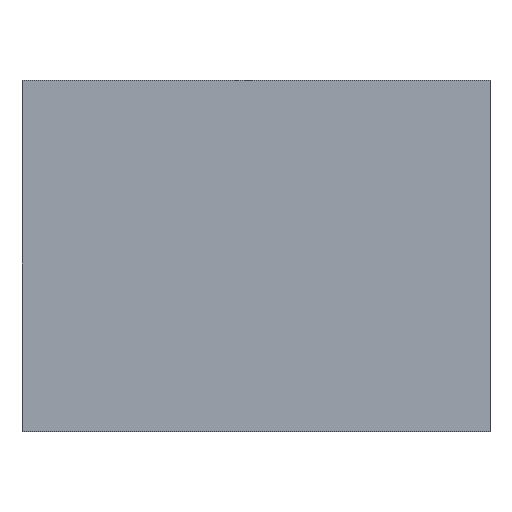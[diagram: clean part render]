
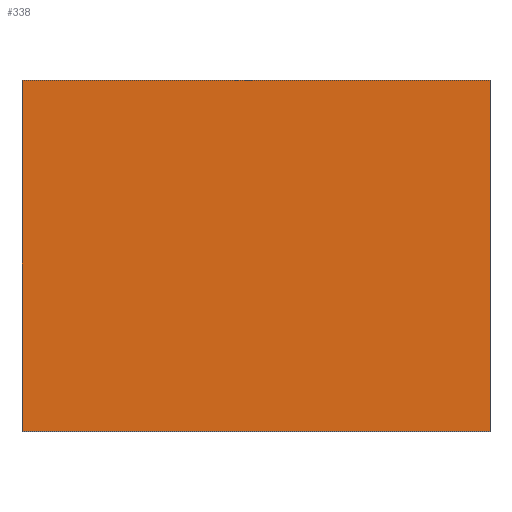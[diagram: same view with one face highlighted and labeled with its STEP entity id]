
A CAD part, top view. The second image highlights one B-rep face of the part: STEP entity #338.
In plain terms, the highlighted planar face has unit normal (0, 0, 1).
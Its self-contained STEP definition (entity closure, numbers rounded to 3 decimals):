
#24 = VERTEX_POINT('',#25);
#25 = CARTESIAN_POINT('',(-30.,-30.,4.));
#32 = PLANE('',#33);
#33 = AXIS2_PLACEMENT_3D('',#34,#35,#36);
#34 = CARTESIAN_POINT('',(-30.,-30.,0.));
#35 = DIRECTION('',(1.,0.,0.));
#36 = DIRECTION('',(0.,0.,1.));
#44 = PLANE('',#45);
#45 = AXIS2_PLACEMENT_3D('',#46,#47,#48);
#46 = CARTESIAN_POINT('',(-30.,-30.,0.));
#47 = DIRECTION('',(0.,1.,0.));
#48 = DIRECTION('',(0.,0.,1.));
#85 = VERTEX_POINT('',#86);
#86 = CARTESIAN_POINT('',(-30.,30.,4.));
#100 = PLANE('',#101);
#101 = AXIS2_PLACEMENT_3D('',#102,#103,#104);
#102 = CARTESIAN_POINT('',(-30.,30.,0.));
#103 = DIRECTION('',(0.,1.,0.));
#104 = DIRECTION('',(0.,0.,1.));
#112 = EDGE_CURVE('',#24,#85,#113,.T.);
#113 = SURFACE_CURVE('',#114,(#118,#125),.PCURVE_S1.);
#114 = LINE('',#115,#116);
#115 = CARTESIAN_POINT('',(-30.,-30.,4.));
#116 = VECTOR('',#117,1.);
#117 = DIRECTION('',(0.,1.,0.));
#118 = PCURVE('',#32,#119);
#119 = DEFINITIONAL_REPRESENTATION('',(#120),#124);
#120 = LINE('',#121,#122);
#121 = CARTESIAN_POINT('',(4.,0.));
#122 = VECTOR('',#123,1.);
#123 = DIRECTION('',(0.,-1.));
#124 = ( GEOMETRIC_REPRESENTATION_CONTEXT(2) 
PARAMETRIC_REPRESENTATION_CONTEXT() REPRESENTATION_CONTEXT('2D SPACE',''
  ) );
#125 = PCURVE('',#126,#131);
#126 = PLANE('',#127);
#127 = AXIS2_PLACEMENT_3D('',#128,#129,#130);
#128 = CARTESIAN_POINT('',(-30.,-30.,4.));
#129 = DIRECTION('',(0.,0.,1.));
#130 = DIRECTION('',(1.,0.,0.));
#131 = DEFINITIONAL_REPRESENTATION('',(#132),#136);
#132 = LINE('',#133,#134);
#133 = CARTESIAN_POINT('',(0.,0.));
#134 = VECTOR('',#135,1.);
#135 = DIRECTION('',(0.,1.));
#136 = ( GEOMETRIC_REPRESENTATION_CONTEXT(2) 
PARAMETRIC_REPRESENTATION_CONTEXT() REPRESENTATION_CONTEXT('2D SPACE',''
  ) );
#144 = VERTEX_POINT('',#145);
#145 = CARTESIAN_POINT('',(50.,-30.,4.));
#152 = PLANE('',#153);
#153 = AXIS2_PLACEMENT_3D('',#154,#155,#156);
#154 = CARTESIAN_POINT('',(50.,-30.,0.));
#155 = DIRECTION('',(1.,0.,0.));
#156 = DIRECTION('',(0.,0.,1.));
#195 = VERTEX_POINT('',#196);
#196 = CARTESIAN_POINT('',(50.,30.,4.));
#217 = EDGE_CURVE('',#144,#195,#218,.T.);
#218 = SURFACE_CURVE('',#219,(#223,#230),.PCURVE_S1.);
#219 = LINE('',#220,#221);
#220 = CARTESIAN_POINT('',(50.,-30.,4.));
#221 = VECTOR('',#222,1.);
#222 = DIRECTION('',(0.,1.,0.));
#223 = PCURVE('',#152,#224);
#224 = DEFINITIONAL_REPRESENTATION('',(#225),#229);
#225 = LINE('',#226,#227);
#226 = CARTESIAN_POINT('',(4.,0.));
#227 = VECTOR('',#228,1.);
#228 = DIRECTION('',(0.,-1.));
#229 = ( GEOMETRIC_REPRESENTATION_CONTEXT(2) 
PARAMETRIC_REPRESENTATION_CONTEXT() REPRESENTATION_CONTEXT('2D SPACE',''
  ) );
#230 = PCURVE('',#126,#231);
#231 = DEFINITIONAL_REPRESENTATION('',(#232),#236);
#232 = LINE('',#233,#234);
#233 = CARTESIAN_POINT('',(80.,0.));
#234 = VECTOR('',#235,1.);
#235 = DIRECTION('',(0.,1.));
#236 = ( GEOMETRIC_REPRESENTATION_CONTEXT(2) 
PARAMETRIC_REPRESENTATION_CONTEXT() REPRESENTATION_CONTEXT('2D SPACE',''
  ) );
#263 = EDGE_CURVE('',#24,#144,#264,.T.);
#264 = SURFACE_CURVE('',#265,(#269,#276),.PCURVE_S1.);
#265 = LINE('',#266,#267);
#266 = CARTESIAN_POINT('',(-30.,-30.,4.));
#267 = VECTOR('',#268,1.);
#268 = DIRECTION('',(1.,0.,0.));
#269 = PCURVE('',#44,#270);
#270 = DEFINITIONAL_REPRESENTATION('',(#271),#275);
#271 = LINE('',#272,#273);
#272 = CARTESIAN_POINT('',(4.,0.));
#273 = VECTOR('',#274,1.);
#274 = DIRECTION('',(0.,1.));
#275 = ( GEOMETRIC_REPRESENTATION_CONTEXT(2) 
PARAMETRIC_REPRESENTATION_CONTEXT() REPRESENTATION_CONTEXT('2D SPACE',''
  ) );
#276 = PCURVE('',#126,#277);
#277 = DEFINITIONAL_REPRESENTATION('',(#278),#282);
#278 = LINE('',#279,#280);
#279 = CARTESIAN_POINT('',(0.,0.));
#280 = VECTOR('',#281,1.);
#281 = DIRECTION('',(1.,0.));
#282 = ( GEOMETRIC_REPRESENTATION_CONTEXT(2) 
PARAMETRIC_REPRESENTATION_CONTEXT() REPRESENTATION_CONTEXT('2D SPACE',''
  ) );
#310 = EDGE_CURVE('',#85,#195,#311,.T.);
#311 = SURFACE_CURVE('',#312,(#316,#323),.PCURVE_S1.);
#312 = LINE('',#313,#314);
#313 = CARTESIAN_POINT('',(-30.,30.,4.));
#314 = VECTOR('',#315,1.);
#315 = DIRECTION('',(1.,0.,0.));
#316 = PCURVE('',#100,#317);
#317 = DEFINITIONAL_REPRESENTATION('',(#318),#322);
#318 = LINE('',#319,#320);
#319 = CARTESIAN_POINT('',(4.,0.));
#320 = VECTOR('',#321,1.);
#321 = DIRECTION('',(0.,1.));
#322 = ( GEOMETRIC_REPRESENTATION_CONTEXT(2) 
PARAMETRIC_REPRESENTATION_CONTEXT() REPRESENTATION_CONTEXT('2D SPACE',''
  ) );
#323 = PCURVE('',#126,#324);
#324 = DEFINITIONAL_REPRESENTATION('',(#325),#329);
#325 = LINE('',#326,#327);
#326 = CARTESIAN_POINT('',(0.,60.));
#327 = VECTOR('',#328,1.);
#328 = DIRECTION('',(1.,0.));
#329 = ( GEOMETRIC_REPRESENTATION_CONTEXT(2) 
PARAMETRIC_REPRESENTATION_CONTEXT() REPRESENTATION_CONTEXT('2D SPACE',''
  ) );
#338 = ADVANCED_FACE('',(#339),#126,.T.);
#339 = FACE_BOUND('',#340,.T.);
#340 = EDGE_LOOP('',(#341,#342,#343,#344));
#341 = ORIENTED_EDGE('',*,*,#112,.F.);
#342 = ORIENTED_EDGE('',*,*,#263,.T.);
#343 = ORIENTED_EDGE('',*,*,#217,.T.);
#344 = ORIENTED_EDGE('',*,*,#310,.F.);
